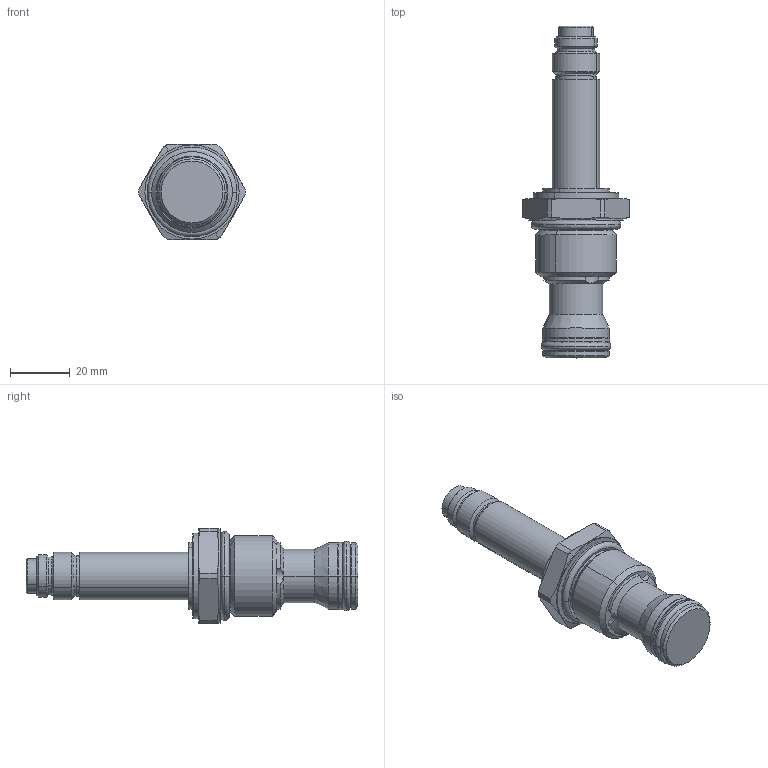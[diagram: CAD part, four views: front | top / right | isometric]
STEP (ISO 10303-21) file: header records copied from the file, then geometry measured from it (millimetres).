
FILE_DESCRIPTION((''),'2;1');
FILE_NAME('5122255_SW0003','2009-03-25T',('JCS'),(''),'PRO/ENGINEER BY PARAMETRIC TECHNOLOGY CORPORATION, 2008510','PRO/ENGINEER BY PARAMETRIC TECHNOLOGY CORPORATION, 2008510','');
FILE_SCHEMA(('CONFIG_CONTROL_DESIGN'));
Length unit declared in the file: inch
Products named in the file (1): 5122255_SW0003
Bounding box: 35.68 x 110.83 x 31.75 mm (x, y, z)
Volume: 37383.8 mm3; surface area: 10740.8 mm2
Topology: 3 solids, 3 shells, 139 faces, 300 edges, 174 vertices
Faces by surface type: cylinder 46, cone 42, plane 19, torus 16, revolution 16
Entity records: 4149 total; most frequent: CARTESIAN_POINT 1036, DIRECTION 692, ORIENTED_EDGE 600, EDGE_CURVE 300, AXIS2_PLACEMENT_3D 291, VERTEX_POINT 174, CIRCLE 168, EDGE_LOOP 150
